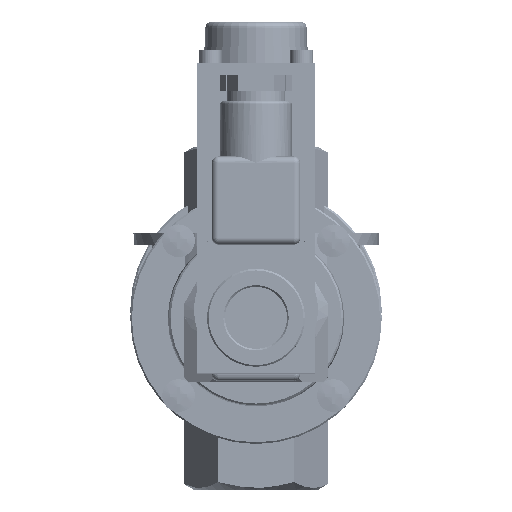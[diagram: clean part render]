
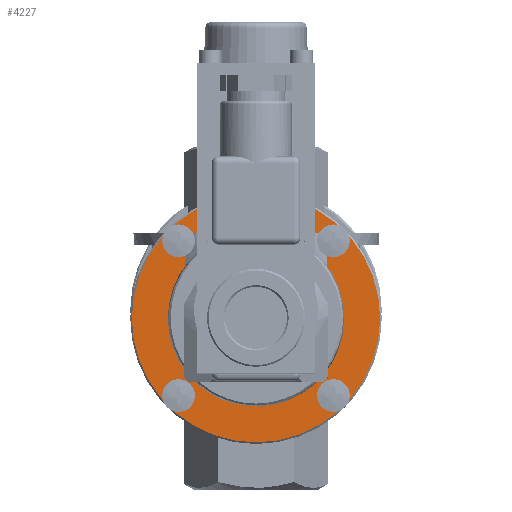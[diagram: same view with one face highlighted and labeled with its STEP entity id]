
A CAD part, top view. The second image highlights one B-rep face of the part: STEP entity #4227.
In plain terms, the highlighted planar face has unit normal (0, 0, 1).
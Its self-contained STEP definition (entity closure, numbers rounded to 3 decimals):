
#4227 = ADVANCED_FACE( '', ( #6499, #6500, #6501, #6502, #6503, #6504 ), #6505, .T. );
#6499 = FACE_BOUND( '', #9811, .T. );
#6500 = FACE_BOUND( '', #9812, .T. );
#6501 = FACE_BOUND( '', #9813, .T. );
#6502 = FACE_BOUND( '', #9814, .T. );
#6503 = FACE_OUTER_BOUND( '', #9815, .T. );
#6504 = FACE_BOUND( '', #9816, .T. );
#6505 = PLANE( '', #9817 );
#9811 = EDGE_LOOP( '', ( #18169 ) );
#9812 = EDGE_LOOP( '', ( #18170 ) );
#9813 = EDGE_LOOP( '', ( #18171 ) );
#9814 = EDGE_LOOP( '', ( #18172 ) );
#9815 = EDGE_LOOP( '', ( #18173 ) );
#9816 = EDGE_LOOP( '', ( #18174 ) );
#9817 = AXIS2_PLACEMENT_3D( '', #18175, #18176, #18177 );
#18169 = ORIENTED_EDGE( '', *, *, #21312, .T. );
#18170 = ORIENTED_EDGE( '', *, *, #21310, .T. );
#18171 = ORIENTED_EDGE( '', *, *, #21308, .T. );
#18172 = ORIENTED_EDGE( '', *, *, #21306, .T. );
#18173 = ORIENTED_EDGE( '', *, *, #21300, .T. );
#18174 = ORIENTED_EDGE( '', *, *, #21289, .T. );
#18175 = CARTESIAN_POINT( '', ( -27., 0., 6.5 ) );
#18176 = DIRECTION( '', ( 0., 0., 1. ) );
#18177 = DIRECTION( '', ( 1., 0., 0. ) );
#21289 = EDGE_CURVE( '', #24522, #24522, #24523, .T. );
#21300 = EDGE_CURVE( '', #24544, #24544, #24545, .T. );
#21306 = EDGE_CURVE( '', #24556, #24556, #24557, .F. );
#21308 = EDGE_CURVE( '', #24560, #24560, #24561, .F. );
#21310 = EDGE_CURVE( '', #24564, #24564, #24565, .F. );
#21312 = EDGE_CURVE( '', #24568, #24568, #24569, .F. );
#24522 = VERTEX_POINT( '', #30231 );
#24523 = CIRCLE( '', #30232, 27. );
#24544 = VERTEX_POINT( '', #30253 );
#24545 = CIRCLE( '', #30254, 38. );
#24556 = VERTEX_POINT( '', #30265 );
#24557 = CIRCLE( '', #30266, 3.1 );
#24560 = VERTEX_POINT( '', #30269 );
#24561 = CIRCLE( '', #30270, 3.1 );
#24564 = VERTEX_POINT( '', #30273 );
#24565 = CIRCLE( '', #30274, 3.1 );
#24568 = VERTEX_POINT( '', #30277 );
#24569 = CIRCLE( '', #30278, 3.1 );
#30231 = CARTESIAN_POINT( '', ( -27., 0., 6.5 ) );
#30232 = AXIS2_PLACEMENT_3D( '', #34054, #34055, #34056 );
#30253 = CARTESIAN_POINT( '', ( 38., 0., 6.5 ) );
#30254 = AXIS2_PLACEMENT_3D( '', #34087, #34088, #34089 );
#30265 = CARTESIAN_POINT( '', ( -20.588, -23.688, 6.5 ) );
#30266 = AXIS2_PLACEMENT_3D( '', #34105, #34106, #34107 );
#30269 = CARTESIAN_POINT( '', ( 26.788, 23.688, 6.5 ) );
#30270 = AXIS2_PLACEMENT_3D( '', #34111, #34112, #34113 );
#30273 = CARTESIAN_POINT( '', ( -20.588, 23.688, 6.5 ) );
#30274 = AXIS2_PLACEMENT_3D( '', #34117, #34118, #34119 );
#30277 = CARTESIAN_POINT( '', ( 26.788, -23.688, 6.5 ) );
#30278 = AXIS2_PLACEMENT_3D( '', #34123, #34124, #34125 );
#34054 = CARTESIAN_POINT( '', ( 0., 0., 6.5 ) );
#34055 = DIRECTION( '', ( 0., 0., -1. ) );
#34056 = DIRECTION( '', ( -1., 0., 0. ) );
#34087 = CARTESIAN_POINT( '', ( 0., 0., 6.5 ) );
#34088 = DIRECTION( '', ( 0., 0., 1. ) );
#34089 = DIRECTION( '', ( 1., 0., 0. ) );
#34105 = CARTESIAN_POINT( '', ( -23.688, -23.688, 6.5 ) );
#34106 = DIRECTION( '', ( 0., 0., 1. ) );
#34107 = DIRECTION( '', ( 1., 0., 0. ) );
#34111 = CARTESIAN_POINT( '', ( 23.688, 23.688, 6.5 ) );
#34112 = DIRECTION( '', ( 0., 0., 1. ) );
#34113 = DIRECTION( '', ( 1., 0., 0. ) );
#34117 = CARTESIAN_POINT( '', ( -23.688, 23.688, 6.5 ) );
#34118 = DIRECTION( '', ( 0., 0., 1. ) );
#34119 = DIRECTION( '', ( 1., 0., 0. ) );
#34123 = CARTESIAN_POINT( '', ( 23.688, -23.688, 6.5 ) );
#34124 = DIRECTION( '', ( 0., 0., 1. ) );
#34125 = DIRECTION( '', ( 1., 0., 0. ) );
